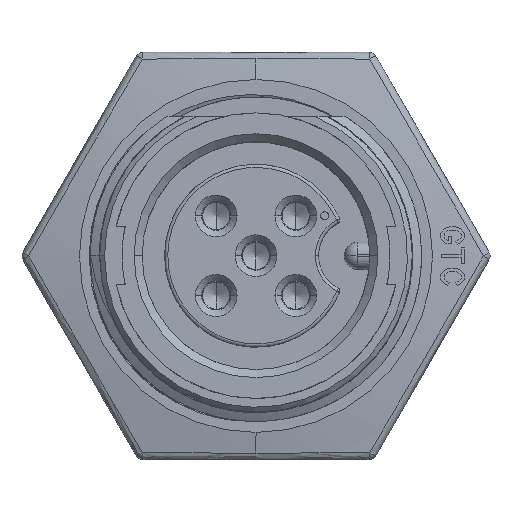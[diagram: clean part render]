
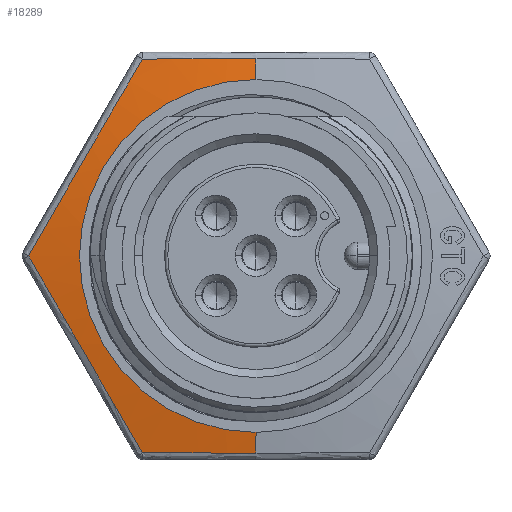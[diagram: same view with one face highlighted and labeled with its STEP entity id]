
A CAD part, top view. The second image highlights one B-rep face of the part: STEP entity #18289.
In plain terms, the highlighted conical face has half-angle 80 degrees and reference radius 11 mm.
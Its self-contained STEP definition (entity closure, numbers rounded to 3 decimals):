
#378 = CARTESIAN_POINT ( 'NONE',  ( -16.875, 19.472, 5.273 ) ) ;
#1207 = B_SPLINE_CURVE_WITH_KNOTS ( 'NONE', 3,
 ( #26638, #41528, #30378, #30619, #26888, #42520 ),
 .UNSPECIFIED., .F., .F.,
 ( 4, 2, 4 ),
 ( 0., 0.007, 0.014 ),
 .UNSPECIFIED. ) ;
#3121 = FACE_OUTER_BOUND ( 'NONE', #30775, .T. ) ;
#3964 = VERTEX_POINT ( 'NONE', #29004 ) ;
#4587 = CARTESIAN_POINT ( 'NONE',  ( -14.506, -0.998, 4.94 ) ) ;
#5911 = CARTESIAN_POINT ( 'NONE',  ( -7.419, 0.277, 5.5 ) ) ;
#6067 = ORIENTED_EDGE ( 'NONE', *, *, #10444, .T. ) ;
#6699 = CARTESIAN_POINT ( 'NONE',  ( -9.787, -1.01, 5.273 ) ) ;
#7180 = LINE ( 'NONE', #7918, #33443 ) ;
#7371 = AXIS2_PLACEMENT_3D ( 'NONE', #21507, #36414, #44605 ) ;
#7620 = CARTESIAN_POINT ( 'NONE',  ( -7.419, 22.277, 5.5 ) ) ;
#7918 = CARTESIAN_POINT ( 'NONE',  ( -7.419, 22.277, 5.5 ) ) ;
#8176 = CARTESIAN_POINT ( 'NONE',  ( -7.419, -1.01, 5.273 ) ) ;
#8407 = ORIENTED_EDGE ( 'NONE', *, *, #14633, .T. ) ;
#8590 = EDGE_CURVE ( 'NONE', #30119, #36372, #14086, .T. ) ;
#10444 = EDGE_CURVE ( 'NONE', #3964, #47699, #36080, .T. ) ;
#11807 = CARTESIAN_POINT ( 'NONE',  ( -15.69, 21.514, 5.147 ) ) ;
#12056 = CARTESIAN_POINT ( 'NONE',  ( -20.42, 13.322, 5.147 ) ) ;
#12969 = CARTESIAN_POINT ( 'NONE',  ( -19.242, 15.373, 5.273 ) ) ;
#13367 = DIRECTION ( 'NONE',  ( 0., -0.985, -0.174 ) ) ;
#14086 = CIRCLE ( 'NONE', #22069, 11. ) ;
#14633 = EDGE_CURVE ( 'NONE', #47699, #42918, #43422, .T. ) ;
#14644 = CARTESIAN_POINT ( 'NONE',  ( -7.419, -1.01, 5.273 ) ) ;
#15571 = VECTOR ( 'NONE', #13367, 1000. ) ;
#15891 = DIRECTION ( 'NONE',  ( 0., 0., -1. ) ) ;
#16583 = CARTESIAN_POINT ( 'NONE',  ( -7.419, 0.277, 5.5 ) ) ;
#17158 = CARTESIAN_POINT ( 'NONE',  ( -14.506, 23.552, 4.94 ) ) ;
#18289 = ADVANCED_FACE ( 'NONE', ( #3121 ), #21669, .T. ) ;
#18608 = DIRECTION ( 'NONE',  ( 0., 0.985, -0.174 ) ) ;
#18888 = DIRECTION ( 'NONE',  ( 0., 1., 0. ) ) ;
#19343 = EDGE_CURVE ( 'NONE', #37138, #32413, #33465, .T. ) ;
#21507 = CARTESIAN_POINT ( 'NONE',  ( -7.419, 11.277, 5.5 ) ) ;
#21669 = CONICAL_SURFACE ( 'NONE', #7371, 11., 1.396 ) ;
#22069 = AXIS2_PLACEMENT_3D ( 'NONE', #30079, #15891, #18888 ) ;
#22486 = CARTESIAN_POINT ( 'NONE',  ( -21.593, 11.277, 4.94 ) ) ;
#22771 = ORIENTED_EDGE ( 'NONE', *, *, #40568, .F. ) ;
#24390 = CARTESIAN_POINT ( 'NONE',  ( -14.506, 23.552, 4.94 ) ) ;
#26638 = CARTESIAN_POINT ( 'NONE',  ( -21.593, 11.277, 4.94 ) ) ;
#26888 = CARTESIAN_POINT ( 'NONE',  ( -15.69, 1.041, 5.147 ) ) ;
#29004 = CARTESIAN_POINT ( 'NONE',  ( -7.419, 23.564, 5.273 ) ) ;
#30079 = CARTESIAN_POINT ( 'NONE',  ( -7.419, 11.277, 5.5 ) ) ;
#30119 = VERTEX_POINT ( 'NONE', #16583 ) ;
#30378 = CARTESIAN_POINT ( 'NONE',  ( -19.244, 7.185, 5.273 ) ) ;
#30619 = CARTESIAN_POINT ( 'NONE',  ( -16.877, 3.086, 5.273 ) ) ;
#30775 = EDGE_LOOP ( 'NONE', ( #22771, #48120, #39692, #6067, #8407, #47388, #40429 ) ) ;
#31765 = EDGE_CURVE ( 'NONE', #36372, #3964, #7180, .T. ) ;
#31871 = CARTESIAN_POINT ( 'NONE',  ( -14.506, 23.552, 4.94 ) ) ;
#32413 = VERTEX_POINT ( 'NONE', #8176 ) ;
#33015 = EDGE_CURVE ( 'NONE', #42918, #37138, #1207, .T. ) ;
#33443 = VECTOR ( 'NONE', #18608, 1000. ) ;
#33465 = B_SPLINE_CURVE_WITH_KNOTS ( 'NONE', 3,
 ( #40725, #48694, #6699, #14644 ),
 .UNSPECIFIED., .F., .F.,
 ( 4, 4 ),
 ( 0., 0.007 ),
 .UNSPECIFIED. ) ;
#36047 = CARTESIAN_POINT ( 'NONE',  ( -12.149, 23.559, 5.147 ) ) ;
#36080 = B_SPLINE_CURVE_WITH_KNOTS ( 'NONE', 3,
 ( #43495, #39765, #36047, #17158 ),
 .UNSPECIFIED., .F., .F.,
 ( 4, 4 ),
 ( 0.007, 0.014 ),
 .UNSPECIFIED. ) ;
#36372 = VERTEX_POINT ( 'NONE', #7620 ) ;
#36414 = DIRECTION ( 'NONE',  ( 0., 0., -1. ) ) ;
#37138 = VERTEX_POINT ( 'NONE', #4587 ) ;
#39692 = ORIENTED_EDGE ( 'NONE', *, *, #31765, .T. ) ;
#39765 = CARTESIAN_POINT ( 'NONE',  ( -9.785, 23.564, 5.273 ) ) ;
#40429 = ORIENTED_EDGE ( 'NONE', *, *, #19343, .T. ) ;
#40568 = EDGE_CURVE ( 'NONE', #30119, #32413, #48398, .T. ) ;
#40725 = CARTESIAN_POINT ( 'NONE',  ( -14.506, -0.998, 4.94 ) ) ;
#41528 = CARTESIAN_POINT ( 'NONE',  ( -20.42, 9.233, 5.147 ) ) ;
#42520 = CARTESIAN_POINT ( 'NONE',  ( -14.506, -0.998, 4.94 ) ) ;
#42918 = VERTEX_POINT ( 'NONE', #22486 ) ;
#43422 = B_SPLINE_CURVE_WITH_KNOTS ( 'NONE', 3,
 ( #24390, #11807, #378, #12969, #12056, #47006 ),
 .UNSPECIFIED., .F., .F.,
 ( 4, 2, 4 ),
 ( 0., 0.007, 0.014 ),
 .UNSPECIFIED. ) ;
#43495 = CARTESIAN_POINT ( 'NONE',  ( -7.419, 23.564, 5.273 ) ) ;
#44605 = DIRECTION ( 'NONE',  ( 0., 1., 0. ) ) ;
#47006 = CARTESIAN_POINT ( 'NONE',  ( -21.593, 11.277, 4.94 ) ) ;
#47388 = ORIENTED_EDGE ( 'NONE', *, *, #33015, .T. ) ;
#47699 = VERTEX_POINT ( 'NONE', #31871 ) ;
#48120 = ORIENTED_EDGE ( 'NONE', *, *, #8590, .T. ) ;
#48398 = LINE ( 'NONE', #5911, #15571 ) ;
#48694 = CARTESIAN_POINT ( 'NONE',  ( -12.148, -1.004, 5.147 ) ) ;
